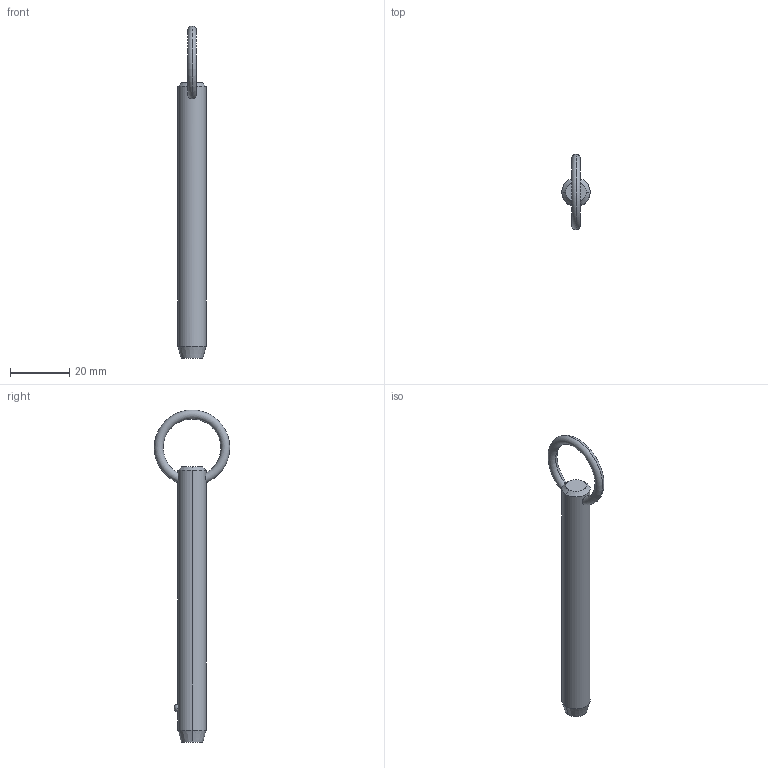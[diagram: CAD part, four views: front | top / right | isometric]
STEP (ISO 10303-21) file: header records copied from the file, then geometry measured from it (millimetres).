
FILE_DESCRIPTION (( 'STEP AP203' ), '1' );
FILE_NAME ('P1250.037-290.step', '2019-07-29T20:03:34', ( '' ), ( '' ), 'SwSTEP 2.0', 'SolidWorks 2017', '' );
FILE_SCHEMA (( 'CONFIG_CONTROL_DESIGN' ));
Length unit declared in the file: millimetre
Products named in the file (1): P1250.037-290
Bounding box: 9.52 x 25.39 x 111.8 mm (x, y, z)
Volume: 6953.2 mm3; surface area: 3416.2 mm2
Topology: 1 solids, 1 shells, 12 faces, 28 edges, 17 vertices
Faces by surface type: cone 4, torus 2, sphere 2, cylinder 2, plane 2
Entity records: 523 total; most frequent: CARTESIAN_POINT 190, DIRECTION 56, ORIENTED_EDGE 48, AXIS2_PLACEMENT_3D 25, EDGE_CURVE 24, EDGE_LOOP 15, VERTEX_POINT 15, FACE_OUTER_BOUND 12
